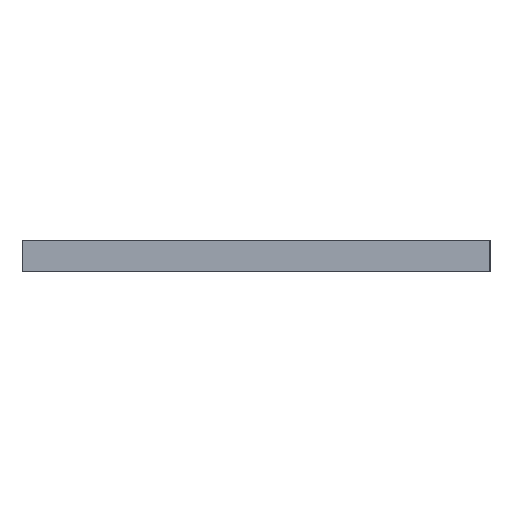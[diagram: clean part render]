
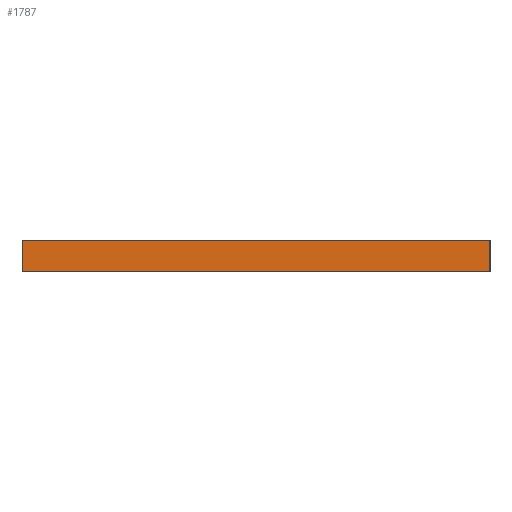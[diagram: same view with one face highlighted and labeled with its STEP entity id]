
A CAD part, left-side view. The second image highlights one B-rep face of the part: STEP entity #1787.
In plain terms, the highlighted planar face has unit normal (-1, 0, 0).
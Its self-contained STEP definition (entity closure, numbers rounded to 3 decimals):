
#22 = VERTEX_POINT('',#23);
#23 = CARTESIAN_POINT('',(-86.,45.,6.));
#32 = PLANE('',#33);
#33 = AXIS2_PLACEMENT_3D('',#34,#35,#36);
#34 = CARTESIAN_POINT('',(-86.,45.,6.));
#35 = DIRECTION('',(0.,-1.,0.));
#36 = DIRECTION('',(1.,0.,0.));
#44 = PLANE('',#45);
#45 = AXIS2_PLACEMENT_3D('',#46,#47,#48);
#46 = CARTESIAN_POINT('',(-86.,45.,6.));
#47 = DIRECTION('',(0.,0.,-1.));
#48 = DIRECTION('',(1.,0.,0.));
#56 = EDGE_CURVE('',#22,#57,#59,.T.);
#57 = VERTEX_POINT('',#58);
#58 = CARTESIAN_POINT('',(-86.,45.,0.));
#59 = SURFACE_CURVE('',#60,(#64,#71),.PCURVE_S1.);
#60 = LINE('',#61,#62);
#61 = CARTESIAN_POINT('',(-86.,45.,6.));
#62 = VECTOR('',#63,1.);
#63 = DIRECTION('',(0.,0.,-1.));
#64 = PCURVE('',#32,#65);
#65 = DEFINITIONAL_REPRESENTATION('',(#66),#70);
#66 = LINE('',#67,#68);
#67 = CARTESIAN_POINT('',(0.,0.));
#68 = VECTOR('',#69,1.);
#69 = DIRECTION('',(0.,-1.));
#70 = ( GEOMETRIC_REPRESENTATION_CONTEXT(2) 
PARAMETRIC_REPRESENTATION_CONTEXT() REPRESENTATION_CONTEXT('2D SPACE',''
  ) );
#71 = PCURVE('',#72,#77);
#72 = PLANE('',#73);
#73 = AXIS2_PLACEMENT_3D('',#74,#75,#76);
#74 = CARTESIAN_POINT('',(-86.,45.,6.));
#75 = DIRECTION('',(1.,0.,0.));
#76 = DIRECTION('',(0.,-1.,0.));
#77 = DEFINITIONAL_REPRESENTATION('',(#78),#82);
#78 = LINE('',#79,#80);
#79 = CARTESIAN_POINT('',(0.,0.));
#80 = VECTOR('',#81,1.);
#81 = DIRECTION('',(0.,1.));
#82 = ( GEOMETRIC_REPRESENTATION_CONTEXT(2) 
PARAMETRIC_REPRESENTATION_CONTEXT() REPRESENTATION_CONTEXT('2D SPACE',''
  ) );
#100 = PLANE('',#101);
#101 = AXIS2_PLACEMENT_3D('',#102,#103,#104);
#102 = CARTESIAN_POINT('',(-86.,45.,0.));
#103 = DIRECTION('',(0.,0.,-1.));
#104 = DIRECTION('',(1.,0.,0.));
#141 = EDGE_CURVE('',#22,#142,#144,.T.);
#142 = VERTEX_POINT('',#143);
#143 = CARTESIAN_POINT('',(-86.,-45.,6.));
#144 = SURFACE_CURVE('',#145,(#149,#156),.PCURVE_S1.);
#145 = LINE('',#146,#147);
#146 = CARTESIAN_POINT('',(-86.,45.,6.));
#147 = VECTOR('',#148,1.);
#148 = DIRECTION('',(0.,-1.,0.));
#149 = PCURVE('',#44,#150);
#150 = DEFINITIONAL_REPRESENTATION('',(#151),#155);
#151 = LINE('',#152,#153);
#152 = CARTESIAN_POINT('',(0.,0.));
#153 = VECTOR('',#154,1.);
#154 = DIRECTION('',(0.,1.));
#155 = ( GEOMETRIC_REPRESENTATION_CONTEXT(2) 
PARAMETRIC_REPRESENTATION_CONTEXT() REPRESENTATION_CONTEXT('2D SPACE',''
  ) );
#156 = PCURVE('',#72,#157);
#157 = DEFINITIONAL_REPRESENTATION('',(#158),#162);
#158 = LINE('',#159,#160);
#159 = CARTESIAN_POINT('',(0.,0.));
#160 = VECTOR('',#161,1.);
#161 = DIRECTION('',(1.,0.));
#162 = ( GEOMETRIC_REPRESENTATION_CONTEXT(2) 
PARAMETRIC_REPRESENTATION_CONTEXT() REPRESENTATION_CONTEXT('2D SPACE',''
  ) );
#202 = PLANE('',#203);
#203 = AXIS2_PLACEMENT_3D('',#204,#205,#206);
#204 = CARTESIAN_POINT('',(-86.,-45.,6.));
#205 = DIRECTION('',(0.,-1.,0.));
#206 = DIRECTION('',(1.,0.,0.));
#1074 = EDGE_CURVE('',#57,#1075,#1077,.T.);
#1075 = VERTEX_POINT('',#1076);
#1076 = CARTESIAN_POINT('',(-86.,-45.,0.));
#1077 = SURFACE_CURVE('',#1078,(#1082,#1089),.PCURVE_S1.);
#1078 = LINE('',#1079,#1080);
#1079 = CARTESIAN_POINT('',(-86.,45.,0.));
#1080 = VECTOR('',#1081,1.);
#1081 = DIRECTION('',(0.,-1.,0.));
#1082 = PCURVE('',#100,#1083);
#1083 = DEFINITIONAL_REPRESENTATION('',(#1084),#1088);
#1084 = LINE('',#1085,#1086);
#1085 = CARTESIAN_POINT('',(0.,0.));
#1086 = VECTOR('',#1087,1.);
#1087 = DIRECTION('',(0.,1.));
#1088 = ( GEOMETRIC_REPRESENTATION_CONTEXT(2) 
PARAMETRIC_REPRESENTATION_CONTEXT() REPRESENTATION_CONTEXT('2D SPACE',''
  ) );
#1089 = PCURVE('',#72,#1090);
#1090 = DEFINITIONAL_REPRESENTATION('',(#1091),#1095);
#1091 = LINE('',#1092,#1093);
#1092 = CARTESIAN_POINT('',(-0.,6.));
#1093 = VECTOR('',#1094,1.);
#1094 = DIRECTION('',(1.,0.));
#1095 = ( GEOMETRIC_REPRESENTATION_CONTEXT(2) 
PARAMETRIC_REPRESENTATION_CONTEXT() REPRESENTATION_CONTEXT('2D SPACE',''
  ) );
#1787 = ADVANCED_FACE('',(#1788),#72,.F.);
#1788 = FACE_BOUND('',#1789,.F.);
#1789 = EDGE_LOOP('',(#1790,#1791,#1792,#1813));
#1790 = ORIENTED_EDGE('',*,*,#56,.F.);
#1791 = ORIENTED_EDGE('',*,*,#141,.T.);
#1792 = ORIENTED_EDGE('',*,*,#1793,.T.);
#1793 = EDGE_CURVE('',#142,#1075,#1794,.T.);
#1794 = SURFACE_CURVE('',#1795,(#1799,#1806),.PCURVE_S1.);
#1795 = LINE('',#1796,#1797);
#1796 = CARTESIAN_POINT('',(-86.,-45.,6.));
#1797 = VECTOR('',#1798,1.);
#1798 = DIRECTION('',(0.,0.,-1.));
#1799 = PCURVE('',#72,#1800);
#1800 = DEFINITIONAL_REPRESENTATION('',(#1801),#1805);
#1801 = LINE('',#1802,#1803);
#1802 = CARTESIAN_POINT('',(90.,0.));
#1803 = VECTOR('',#1804,1.);
#1804 = DIRECTION('',(0.,1.));
#1805 = ( GEOMETRIC_REPRESENTATION_CONTEXT(2) 
PARAMETRIC_REPRESENTATION_CONTEXT() REPRESENTATION_CONTEXT('2D SPACE',''
  ) );
#1806 = PCURVE('',#202,#1807);
#1807 = DEFINITIONAL_REPRESENTATION('',(#1808),#1812);
#1808 = LINE('',#1809,#1810);
#1809 = CARTESIAN_POINT('',(0.,0.));
#1810 = VECTOR('',#1811,1.);
#1811 = DIRECTION('',(0.,-1.));
#1812 = ( GEOMETRIC_REPRESENTATION_CONTEXT(2) 
PARAMETRIC_REPRESENTATION_CONTEXT() REPRESENTATION_CONTEXT('2D SPACE',''
  ) );
#1813 = ORIENTED_EDGE('',*,*,#1074,.F.);
